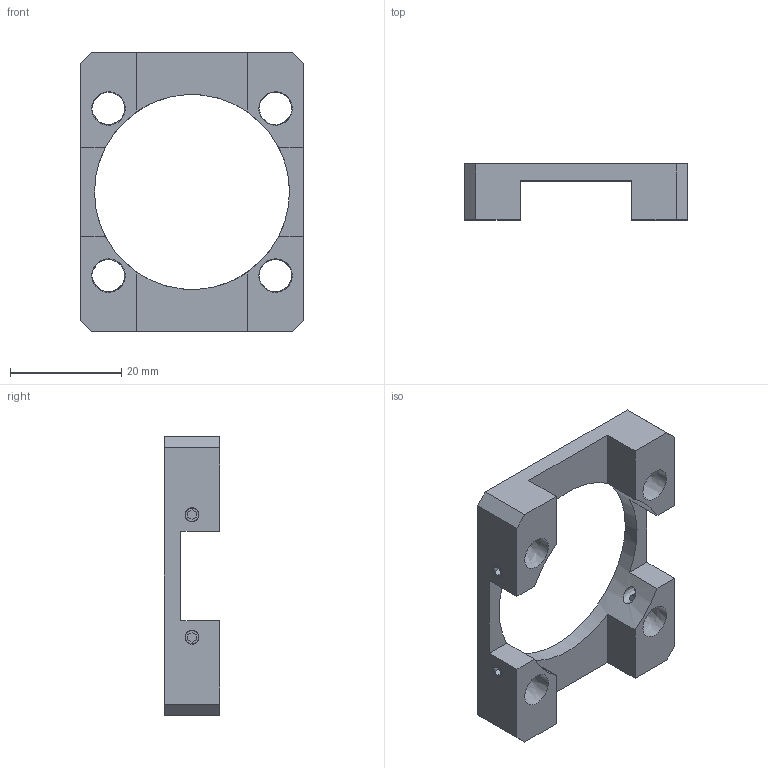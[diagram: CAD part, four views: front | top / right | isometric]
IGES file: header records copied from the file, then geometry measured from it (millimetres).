
Global section: file name: C30-4RPN-H35; native system: Autodesk Inventor 2021; preprocessor: unknown; author: e.nonaka; date: 20220331.102229; units: millimetre
Bounding box: 40 x 10 x 50 mm (x, y, z)
Volume: 6027.2 mm3; surface area: 4904.5 mm2
Topology: 1 solids, 1 shells, 86 faces, 248 edges, 171 vertices
Faces by surface type: bspline 86
